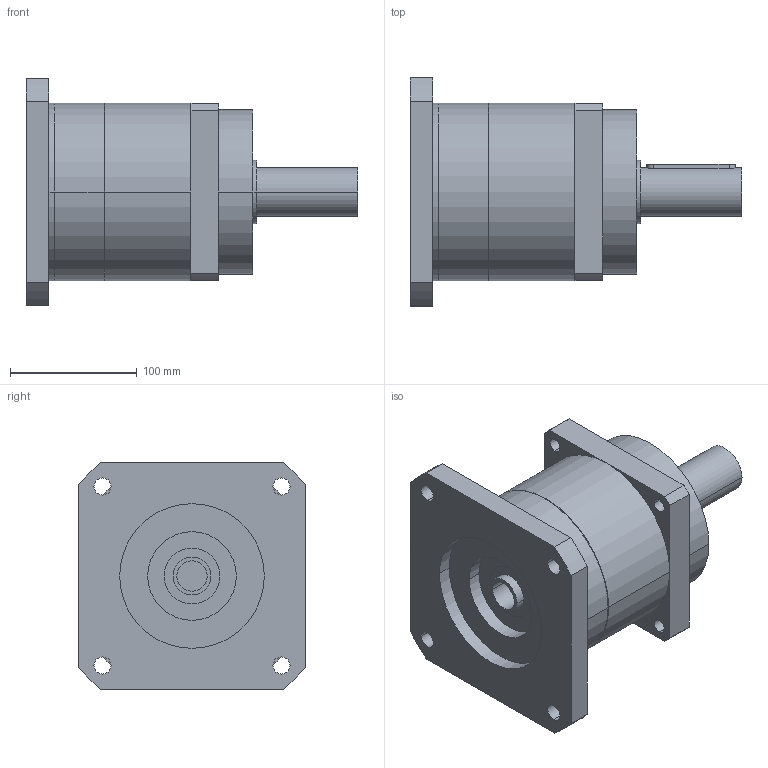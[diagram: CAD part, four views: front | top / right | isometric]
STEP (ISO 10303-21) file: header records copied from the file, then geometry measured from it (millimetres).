
FILE_DESCRIPTION(('CoCreate Modeling STEP Export'),'2;1');
FILE_NAME('GPR150_ig-3-4-5-7_38_B5_24_P09.stp','2014-08-19T16:42:27',(''),(''),'CoCreate Modeling STEP processor for AP214 (Solid Model)','CoCreate Modeling 16.00C 25-Feb-2009 (C) Parametric Technology GmbH','');
FILE_SCHEMA(('AUTOMOTIVE_DESIGN { 1 0 10303 214 1 1 1 1 }'));
Length unit declared in the file: millimetre
Products named in the file (2): GPR150_ig-3-4-5-7_38_B5_24_P09
Assembly tree (1 placements, depth 2):
  GPR150_ig-3-4-5-7_38_B5_24_P09
    GPR150_ig-3-4-5-7_38_B5_24_P09
Bounding box: 262 x 180 x 180 mm (x, y, z)
Volume: 2989070.9 mm3; surface area: 183028.9 mm2
Topology: 1 solids, 1 shells, 84 faces, 227 edges, 155 vertices
Faces by surface type: cylinder 50, plane 28, cone 6
Entity records: 2395 total; most frequent: ORIENTED_EDGE 450, CARTESIAN_POINT 442, DIRECTION 340, EDGE_CURVE 225, VERTEX_POINT 155, AXIS2_PLACEMENT_3D 125, EDGE_LOOP 112, VECTOR 90
